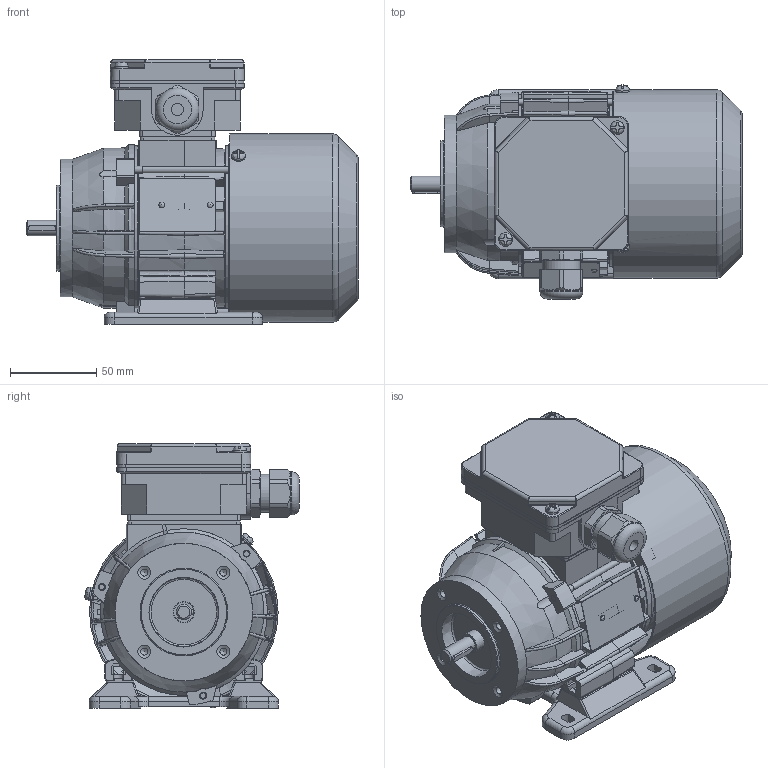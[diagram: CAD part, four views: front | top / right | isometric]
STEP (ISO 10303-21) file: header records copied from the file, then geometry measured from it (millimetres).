
FILE_DESCRIPTION( ( 'Unknown' ), '1' );
FILE_NAME( 'G:/Poczta Tk-1/STP/w.m.56/Sh56/SLh56-B2.stp', 'Unknown', ( 'K. Szlosek' ), ( 'BESEL S.A.' ), 'PSStep 17.0.49', 'Unknown', ' ' );
FILE_SCHEMA( ( 'AUTOMOTIVE_DESIGN { 1 0 10303 214 1 1 1 1 }' ) );
Length unit declared in the file: millimetre
Products named in the file (29): Assem1; K4-2320 Uszczelka nr 1 Sh71,80; K3-9987 kadłub ze stojanem Sh56-B; K3-2193 Tarcza łożyskowa P Sg56-2..; K3-9990 wał Sh56-B; K2-0860 Pokrywka skrzynki zaciskowej; Wpust A3x3x16; K3-2977 Osłona przewietrznika Sg56; K4-2820 Uszczelka nr 2 Sh71,80; Wkręt samogwintujący M4x8; Wkręt samogwintujący M4x16; K2-0879 Przewietrznik Sg56; Nitokołek A 2x6; K1-0533 Tarcza kołnierzowa B14_2 SKg56-..2; K1-0484 Łapa Sg56-.. w. robocza; K2-0859 Podstawa skrzynki 6-cio zaciskowej; Śruba ściągająca E_M4x75; Tabliczka znamionowa 32x44; Łożysko 6201; Dławnica M20x1,5
Assembly tree (44 placements, depth 2):
  Assem1
    K4-2320 Uszczelka nr 1 Sh71,80
    K3-9987 kadłub ze stojanem Sh56-B
    K3-2193 Tarcza łożyskowa P Sg56-2..
    K3-9990 wał Sh56-B
    K2-0860 Pokrywka skrzynki zaciskowej
    Wpust A3x3x16
    K3-2977 Osłona przewietrznika Sg56
    K4-2820 Uszczelka nr 2 Sh71,80
    Wkręt samogwintujący M4x8  x3
    Wkręt samogwintujący M4x16  x2
    K2-0879 Przewietrznik Sg56
    Nitokołek A 2x6  x2
    K1-0533 Tarcza kołnierzowa B14_2 SKg56-..2
    K1-0484 Łapa Sg56-.. w. robocza
    K2-0859 Podstawa skrzynki 6-cio zaciskowej
    Śruba ściągająca E_M4x75  x3
    Tabliczka znamionowa 32x44
    Łożysko 6201  x2
    Łożysko 6201  x2
    Łożysko 6201  x2
    Łożysko 6201  x2
    Łożysko 6201  x2
    Łożysko 6201  x2
    Łożysko 6201  x2
    Łożysko 6201  x2
    Łożysko 6201  x2
    Łożysko 6201  x2
    Dławnica M20x1,5
Bounding box: 193 x 124.54 x 154 mm (x, y, z)
Volume: 448800 mm3; surface area: 314715.9 mm2
Topology: 44 solids, 60 shells, 1913 faces, 5183 edges, 3346 vertices
Faces by surface type: plane 992, cylinder 555, cone 132, torus 108, bspline 92, sphere 34
Full cylindrical faces by diameter (mm): 2 x2, 2.4 x2, 3.242 x3, 3.7 x10, 4 x8, 4.134 x4, 4.5 x4, 4.8 x4, 5 x4, 5.8 x4, 7 x4, 8 x6, 9 x1, 10.9 x1, 11 x1, 11.5 x1, 11.8 x2, 12 x4, 12.4 x2, 15.5 x1, 16 x1, 16.1 x1, 17 x2, 18 x1, 18.376 x1, 18.38 x1, 18.52 x4, 20 x1, 22.3 x1, 24 x2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
Entity records: 78831 total; most frequent: CARTESIAN_POINT 20969, ORIENTED_EDGE 8992, DIRECTION 8936, EDGE_CURVE 4496, AXIS2_PLACEMENT_3D 3319, VERTEX_POINT 3038, LINE 2298, VECTOR 2298
